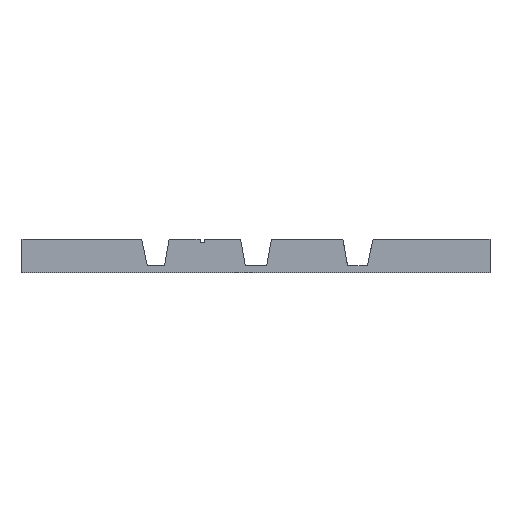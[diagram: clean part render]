
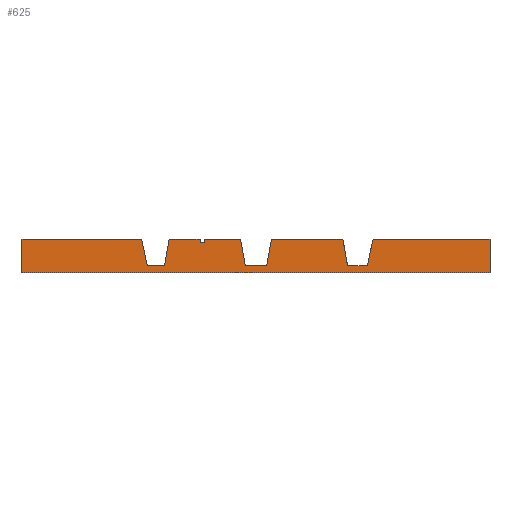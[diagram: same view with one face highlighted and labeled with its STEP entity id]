
A CAD part, front view. The second image highlights one B-rep face of the part: STEP entity #625.
In plain terms, the highlighted planar face has unit normal (0, -1, 0).
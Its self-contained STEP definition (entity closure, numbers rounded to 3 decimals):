
#625=ADVANCED_FACE('',(#1116),#830,.F.);
#830=PLANE('',#6107);
#1116=FACE_OUTER_BOUND('',#1402,.T.);
#1402=EDGE_LOOP('',(#4077,#4078,#4079,#4080,#4081,#4082,#4083,#4084,#4085,
#4086,#4087,#4088,#4089,#4090,#4091,#4092,#4093,#4094,#4095,#4096));
#1405=LINE('',#7498,#1911);
#1410=LINE('',#7510,#1916);
#1413=LINE('',#7516,#1919);
#1417=LINE('',#7525,#1923);
#1446=LINE('',#7597,#1952);
#1451=LINE('',#7621,#1957);
#1490=LINE('',#7855,#1996);
#1530=LINE('',#8092,#2036);
#1552=LINE('',#8209,#2058);
#1580=LINE('',#8266,#2086);
#1607=LINE('',#8377,#2113);
#1610=LINE('',#8383,#2116);
#1625=LINE('',#8413,#2131);
#1627=LINE('',#8422,#2133);
#1676=LINE('',#8639,#2182);
#1678=LINE('',#8642,#2184);
#1680=LINE('',#8645,#2186);
#1686=LINE('',#8665,#2192);
#1703=LINE('',#8777,#2209);
#1704=LINE('',#8783,#2210);
#1911=VECTOR('',#6114,1.);
#1916=VECTOR('',#6121,1.);
#1919=VECTOR('',#6126,1.);
#1923=VECTOR('',#6132,1.);
#1952=VECTOR('',#6163,1.);
#1957=VECTOR('',#6170,1.);
#1996=VECTOR('',#6211,1.);
#2036=VECTOR('',#6253,1.);
#2058=VECTOR('',#6277,1.);
#2086=VECTOR('',#6307,1.);
#2113=VECTOR('',#6336,1.);
#2116=VECTOR('',#6341,1.);
#2131=VECTOR('',#6358,1.);
#2133=VECTOR('',#6362,1.);
#2182=VECTOR('',#6529,1.);
#2184=VECTOR('',#6533,1.);
#2186=VECTOR('',#6537,1.);
#2192=VECTOR('',#6547,1.);
#2209=VECTOR('',#6596,1.);
#2210=VECTOR('',#6599,1.);
#4077=ORIENTED_EDGE('',*,*,#4932,.F.);
#4078=ORIENTED_EDGE('',*,*,#5043,.T.);
#4079=ORIENTED_EDGE('',*,*,#5045,.T.);
#4080=ORIENTED_EDGE('',*,*,#4950,.T.);
#4081=ORIENTED_EDGE('',*,*,#5081,.T.);
#4082=ORIENTED_EDGE('',*,*,#4702,.T.);
#4083=ORIENTED_EDGE('',*,*,#4666,.T.);
#4084=ORIENTED_EDGE('',*,*,#4663,.T.);
#4085=ORIENTED_EDGE('',*,*,#4670,.F.);
#4086=ORIENTED_EDGE('',*,*,#5083,.T.);
#4087=ORIENTED_EDGE('',*,*,#4710,.F.);
#4088=ORIENTED_EDGE('',*,*,#4658,.T.);
#4089=ORIENTED_EDGE('',*,*,#4773,.T.);
#4090=ORIENTED_EDGE('',*,*,#5055,.T.);
#4091=ORIENTED_EDGE('',*,*,#4868,.T.);
#4092=ORIENTED_EDGE('',*,*,#4929,.F.);
#4093=ORIENTED_EDGE('',*,*,#4896,.T.);
#4094=ORIENTED_EDGE('',*,*,#5047,.T.);
#4095=ORIENTED_EDGE('',*,*,#4837,.T.);
#4096=ORIENTED_EDGE('',*,*,#4947,.F.);
#4101=VERTEX_POINT('',#7499);
#4102=VERTEX_POINT('',#7500);
#4105=VERTEX_POINT('',#7508);
#4107=VERTEX_POINT('',#7511);
#4109=VERTEX_POINT('',#7517);
#4112=VERTEX_POINT('',#7524);
#4143=VERTEX_POINT('',#7598);
#4149=VERTEX_POINT('',#7622);
#4211=VERTEX_POINT('',#7856);
#4274=VERTEX_POINT('',#8091);
#4275=VERTEX_POINT('',#8093);
#4304=VERTEX_POINT('',#8207);
#4306=VERTEX_POINT('',#8210);
#4332=VERTEX_POINT('',#8264);
#4334=VERTEX_POINT('',#8267);
#4367=VERTEX_POINT('',#8382);
#4368=VERTEX_POINT('',#8384);
#4383=VERTEX_POINT('',#8421);
#4384=VERTEX_POINT('',#8423);
#4439=VERTEX_POINT('',#8637);
#4658=EDGE_CURVE('',#4101,#4102,#1405,.T.);
#4663=EDGE_CURVE('',#4107,#4105,#1410,.T.);
#4666=EDGE_CURVE('',#4109,#4107,#1413,.T.);
#4670=EDGE_CURVE('',#4112,#4105,#1417,.T.);
#4702=EDGE_CURVE('',#4143,#4109,#1446,.T.);
#4710=EDGE_CURVE('',#4101,#4149,#1451,.T.);
#4773=EDGE_CURVE('',#4102,#4211,#1490,.T.);
#4837=EDGE_CURVE('',#4275,#4274,#1530,.T.);
#4868=EDGE_CURVE('',#4306,#4304,#1552,.T.);
#4896=EDGE_CURVE('',#4334,#4332,#1580,.T.);
#4929=EDGE_CURVE('',#4334,#4304,#1607,.T.);
#4932=EDGE_CURVE('',#4367,#4368,#1610,.T.);
#4947=EDGE_CURVE('',#4368,#4274,#1625,.T.);
#4950=EDGE_CURVE('',#4384,#4383,#1627,.T.);
#5043=EDGE_CURVE('',#4367,#4439,#1676,.T.);
#5045=EDGE_CURVE('',#4439,#4384,#1678,.T.);
#5047=EDGE_CURVE('',#4332,#4275,#1680,.T.);
#5055=EDGE_CURVE('',#4211,#4306,#1686,.T.);
#5081=EDGE_CURVE('',#4383,#4143,#1703,.T.);
#5083=EDGE_CURVE('',#4112,#4149,#1704,.T.);
#6107=AXIS2_PLACEMENT_3D('',#9982,#7480,#7481);
#6114=DIRECTION('',(1.,0.,0.));
#6121=DIRECTION('',(-1.,0.,0.));
#6126=DIRECTION('',(-0.174,0.,-0.985));
#6132=DIRECTION('',(0.208,0.,-0.978));
#6163=DIRECTION('',(-1.,0.,0.));
#6170=DIRECTION('',(0.,0.,1.));
#6211=DIRECTION('',(0.,0.,1.));
#6253=DIRECTION('',(-0.174,0.,-0.985));
#6277=DIRECTION('',(-0.208,0.,-0.978));
#6307=DIRECTION('',(-0.174,0.,0.985));
#6336=DIRECTION('',(1.,0.,0.));
#6341=DIRECTION('',(0.174,0.,-0.985));
#6358=DIRECTION('',(1.,0.,0.));
#6362=DIRECTION('',(-1.,0.,0.));
#6529=DIRECTION('',(-1.,0.,0.));
#6533=DIRECTION('',(0.,0.,-1.));
#6537=DIRECTION('',(-1.,0.,0.));
#6547=DIRECTION('',(-1.,0.,0.));
#6596=DIRECTION('',(0.,0.,1.));
#6599=DIRECTION('',(-1.,0.,0.));
#7480=DIRECTION('',(0.,1.,0.));
#7481=DIRECTION('',(0.,0.,1.));
#7498=CARTESIAN_POINT('',(0.,22.,286.4));
#7499=CARTESIAN_POINT('',(-66.5,22.,286.4));
#7500=CARTESIAN_POINT('',(66.5,22.,286.4));
#7508=CARTESIAN_POINT('',(-30.891,22.,288.4));
#7510=CARTESIAN_POINT('',(-26.635,22.,288.4));
#7511=CARTESIAN_POINT('',(-26.015,22.,288.4));
#7516=CARTESIAN_POINT('',(-24.675,22.,296.));
#7517=CARTESIAN_POINT('',(-24.675,22.,296.));
#7524=CARTESIAN_POINT('',(-32.507,22.,296.));
#7525=CARTESIAN_POINT('',(-32.507,22.,296.));
#7597=CARTESIAN_POINT('',(0.,22.,296.));
#7598=CARTESIAN_POINT('',(-15.88,22.,296.));
#7621=CARTESIAN_POINT('',(-66.5,22.,286.4));
#7622=CARTESIAN_POINT('',(-66.5,22.,296.));
#7855=CARTESIAN_POINT('',(66.5,22.,286.4));
#7856=CARTESIAN_POINT('',(66.5,22.,296.));
#8091=CARTESIAN_POINT('',(3.048,22.,288.4));
#8092=CARTESIAN_POINT('',(4.388,22.,296.));
#8093=CARTESIAN_POINT('',(4.388,22.,296.));
#8207=CARTESIAN_POINT('',(31.646,22.,288.4));
#8209=CARTESIAN_POINT('',(33.262,22.,296.));
#8210=CARTESIAN_POINT('',(33.262,22.,296.));
#8264=CARTESIAN_POINT('',(24.675,22.,296.));
#8266=CARTESIAN_POINT('',(24.675,22.,296.));
#8267=CARTESIAN_POINT('',(26.015,22.,288.4));
#8377=CARTESIAN_POINT('',(27.618,22.,288.4));
#8382=CARTESIAN_POINT('',(-4.388,22.,296.));
#8383=CARTESIAN_POINT('',(-4.388,22.,296.));
#8384=CARTESIAN_POINT('',(-3.048,22.,288.4));
#8413=CARTESIAN_POINT('',(2.194,22.,288.4));
#8421=CARTESIAN_POINT('',(-15.877,22.,295.));
#8422=CARTESIAN_POINT('',(-14.975,22.,295.));
#8423=CARTESIAN_POINT('',(-14.673,22.,295.));
#8637=CARTESIAN_POINT('',(-14.673,22.,296.));
#8639=CARTESIAN_POINT('',(0.,22.,296.));
#8642=CARTESIAN_POINT('',(-14.673,22.,296.));
#8645=CARTESIAN_POINT('',(0.,22.,296.));
#8665=CARTESIAN_POINT('',(0.,22.,296.));
#8777=CARTESIAN_POINT('',(-15.88,22.,286.4));
#8783=CARTESIAN_POINT('',(0.,22.,296.));
#9982=CARTESIAN_POINT('',(0.,22.,0.));
